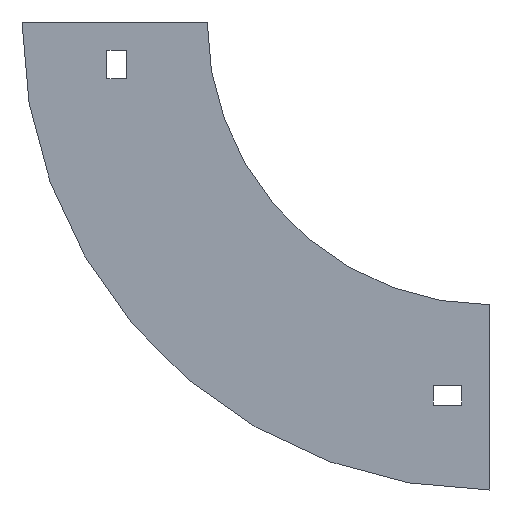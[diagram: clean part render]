
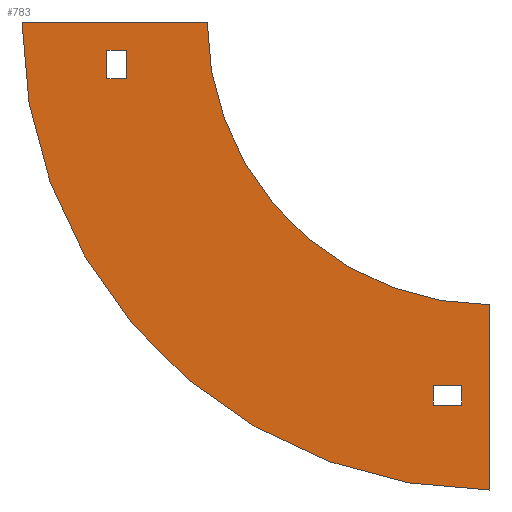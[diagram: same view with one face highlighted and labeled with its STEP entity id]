
A CAD part, left-side view. The second image highlights one B-rep face of the part: STEP entity #783.
In plain terms, the highlighted planar face has unit normal (-1, 0, 0).
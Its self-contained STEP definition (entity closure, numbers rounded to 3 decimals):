
#16 = ORIENTED_EDGE ( 'NONE', *, *, #1131, .T. ) ;
#35 = DIRECTION ( 'NONE',  ( 0., 0., 1. ) ) ;
#36 = LINE ( 'NONE', #480, #822 ) ;
#59 = EDGE_CURVE ( 'NONE', #854, #75, #687, .T. ) ;
#64 = CARTESIAN_POINT ( 'NONE',  ( -202., -80., -128.5 ) ) ;
#73 = VERTEX_POINT ( 'NONE', #665 ) ;
#75 = VERTEX_POINT ( 'NONE', #1016 ) ;
#89 = CARTESIAN_POINT ( 'NONE',  ( -202., -80., -135.5 ) ) ;
#91 = VERTEX_POINT ( 'NONE', #928 ) ;
#97 = CARTESIAN_POINT ( 'NONE',  ( -202., 0., 0. ) ) ;
#126 = AXIS2_PLACEMENT_3D ( 'NONE', #1109, #299, #221 ) ;
#142 = DIRECTION ( 'NONE',  ( 0., -1., 0. ) ) ;
#143 = LINE ( 'NONE', #1055, #764 ) ;
#150 = CARTESIAN_POINT ( 'NONE',  ( -202., 35.5, -10. ) ) ;
#161 = DIRECTION ( 'NONE',  ( 0., 0., -1. ) ) ;
#167 = CARTESIAN_POINT ( 'NONE',  ( -202., 28.5, -10. ) ) ;
#174 = VECTOR ( 'NONE', #344, 1000. ) ;
#193 = EDGE_CURVE ( 'NONE', #632, #854, #861, .T. ) ;
#200 = AXIS2_PLACEMENT_3D ( 'NONE', #911, #639, #267 ) ;
#212 = EDGE_CURVE ( 'NONE', #1075, #322, #766, .T. ) ;
#221 = DIRECTION ( 'NONE',  ( 0., 0., 1. ) ) ;
#231 = EDGE_CURVE ( 'NONE', #799, #295, #545, .T. ) ;
#245 = CARTESIAN_POINT ( 'NONE',  ( -202., 65.5, 0. ) ) ;
#249 = EDGE_CURVE ( 'NONE', #795, #632, #1027, .T. ) ;
#267 = DIRECTION ( 'NONE',  ( 0., 0., 1. ) ) ;
#295 = VERTEX_POINT ( 'NONE', #528 ) ;
#299 = DIRECTION ( 'NONE',  ( -1., 0., 0. ) ) ;
#301 = ORIENTED_EDGE ( 'NONE', *, *, #59, .F. ) ;
#310 = ORIENTED_EDGE ( 'NONE', *, *, #719, .F. ) ;
#322 = VERTEX_POINT ( 'NONE', #406 ) ;
#330 = EDGE_CURVE ( 'NONE', #990, #73, #143, .T. ) ;
#344 = DIRECTION ( 'NONE',  ( 0., 0., -1. ) ) ;
#355 = CARTESIAN_POINT ( 'NONE',  ( -202., -90., -128.5 ) ) ;
#358 = FACE_BOUND ( 'NONE', #735, .T. ) ;
#363 = CARTESIAN_POINT ( 'NONE',  ( -202., -100., -100. ) ) ;
#391 = VECTOR ( 'NONE', #923, 1000. ) ;
#406 = CARTESIAN_POINT ( 'NONE',  ( -202., 28.5, -10. ) ) ;
#454 = EDGE_CURVE ( 'NONE', #75, #795, #518, .T. ) ;
#461 = FACE_BOUND ( 'NONE', #1005, .T. ) ;
#480 = CARTESIAN_POINT ( 'NONE',  ( -202., 35.5, -10. ) ) ;
#517 = VECTOR ( 'NONE', #161, 1000. ) ;
#518 = LINE ( 'NONE', #363, #174 ) ;
#528 = CARTESIAN_POINT ( 'NONE',  ( -202., -80., -135.5 ) ) ;
#545 = LINE ( 'NONE', #89, #648 ) ;
#548 = LINE ( 'NONE', #355, #746 ) ;
#607 = EDGE_LOOP ( 'NONE', ( #301, #963, #964, #815 ) ) ;
#632 = VERTEX_POINT ( 'NONE', #656 ) ;
#633 = CARTESIAN_POINT ( 'NONE',  ( -202., -90., -135.5 ) ) ;
#636 = FACE_OUTER_BOUND ( 'NONE', #607, .T. ) ;
#639 = DIRECTION ( 'NONE',  ( 1., 0., 0. ) ) ;
#648 = VECTOR ( 'NONE', #897, 1000. ) ;
#656 = CARTESIAN_POINT ( 'NONE',  ( -202., 65.5, 0. ) ) ;
#665 = CARTESIAN_POINT ( 'NONE',  ( -202., 35.5, -20. ) ) ;
#687 = CIRCLE ( 'NONE', #126, 100. ) ;
#700 = ORIENTED_EDGE ( 'NONE', *, *, #856, .F. ) ;
#719 = EDGE_CURVE ( 'NONE', #751, #91, #1007, .T. ) ;
#725 = CARTESIAN_POINT ( 'NONE',  ( -202., -100., 0. ) ) ;
#735 = EDGE_LOOP ( 'NONE', ( #768, #16, #864, #1147 ) ) ;
#736 = DIRECTION ( 'NONE',  ( 0., -1., 0. ) ) ;
#746 = VECTOR ( 'NONE', #827, 1000. ) ;
#751 = VERTEX_POINT ( 'NONE', #902 ) ;
#764 = VECTOR ( 'NONE', #867, 1000. ) ;
#766 = LINE ( 'NONE', #150, #1042 ) ;
#768 = ORIENTED_EDGE ( 'NONE', *, *, #212, .T. ) ;
#783 = ADVANCED_FACE ( 'NONE', ( #358, #636, #461 ), #834, .T. ) ;
#795 = VERTEX_POINT ( 'NONE', #1125 ) ;
#799 = VERTEX_POINT ( 'NONE', #64 ) ;
#809 = ORIENTED_EDGE ( 'NONE', *, *, #231, .F. ) ;
#815 = ORIENTED_EDGE ( 'NONE', *, *, #454, .F. ) ;
#822 = VECTOR ( 'NONE', #830, 1000. ) ;
#827 = DIRECTION ( 'NONE',  ( 0., 1., 0. ) ) ;
#830 = DIRECTION ( 'NONE',  ( 0., 0., 1. ) ) ;
#834 = PLANE ( 'NONE',  #1111 ) ;
#854 = VERTEX_POINT ( 'NONE', #97 ) ;
#856 = EDGE_CURVE ( 'NONE', #295, #751, #1093, .T. ) ;
#861 = LINE ( 'NONE', #245, #1011 ) ;
#864 = ORIENTED_EDGE ( 'NONE', *, *, #330, .T. ) ;
#867 = DIRECTION ( 'NONE',  ( 0., 1., 0. ) ) ;
#870 = EDGE_CURVE ( 'NONE', #91, #799, #548, .T. ) ;
#883 = ORIENTED_EDGE ( 'NONE', *, *, #870, .F. ) ;
#884 = LINE ( 'NONE', #167, #517 ) ;
#897 = DIRECTION ( 'NONE',  ( 0., 0., -1. ) ) ;
#902 = CARTESIAN_POINT ( 'NONE',  ( -202., -90., -135.5 ) ) ;
#911 = CARTESIAN_POINT ( 'NONE',  ( -202., -100., 0. ) ) ;
#923 = DIRECTION ( 'NONE',  ( 0., 0., 1. ) ) ;
#928 = CARTESIAN_POINT ( 'NONE',  ( -202., -90., -128.5 ) ) ;
#935 = CARTESIAN_POINT ( 'NONE',  ( -202., 28.5, -20. ) ) ;
#963 = ORIENTED_EDGE ( 'NONE', *, *, #193, .F. ) ;
#964 = ORIENTED_EDGE ( 'NONE', *, *, #249, .F. ) ;
#966 = DIRECTION ( 'NONE',  ( 0., -1., 0. ) ) ;
#971 = EDGE_CURVE ( 'NONE', #73, #1075, #36, .T. ) ;
#982 = CARTESIAN_POINT ( 'NONE',  ( -202., 35.5, -10. ) ) ;
#985 = CARTESIAN_POINT ( 'NONE',  ( -202., -90., -135.5 ) ) ;
#990 = VERTEX_POINT ( 'NONE', #935 ) ;
#999 = VECTOR ( 'NONE', #736, 1000. ) ;
#1005 = EDGE_LOOP ( 'NONE', ( #883, #310, #700, #809 ) ) ;
#1007 = LINE ( 'NONE', #985, #391 ) ;
#1011 = VECTOR ( 'NONE', #966, 1000. ) ;
#1016 = CARTESIAN_POINT ( 'NONE',  ( -202., -100., -100. ) ) ;
#1027 = CIRCLE ( 'NONE', #200, 165.5 ) ;
#1042 = VECTOR ( 'NONE', #142, 1000. ) ;
#1055 = CARTESIAN_POINT ( 'NONE',  ( -202., 35.5, -20. ) ) ;
#1075 = VERTEX_POINT ( 'NONE', #982 ) ;
#1081 = DIRECTION ( 'NONE',  ( -1., 0., 0. ) ) ;
#1093 = LINE ( 'NONE', #633, #999 ) ;
#1109 = CARTESIAN_POINT ( 'NONE',  ( -202., -100., 0. ) ) ;
#1111 = AXIS2_PLACEMENT_3D ( 'NONE', #725, #1081, #35 ) ;
#1125 = CARTESIAN_POINT ( 'NONE',  ( -202., -100., -165.5 ) ) ;
#1131 = EDGE_CURVE ( 'NONE', #322, #990, #884, .T. ) ;
#1147 = ORIENTED_EDGE ( 'NONE', *, *, #971, .T. ) ;
